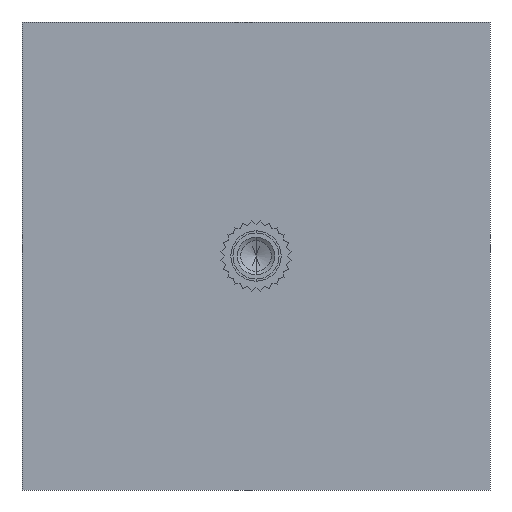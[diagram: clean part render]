
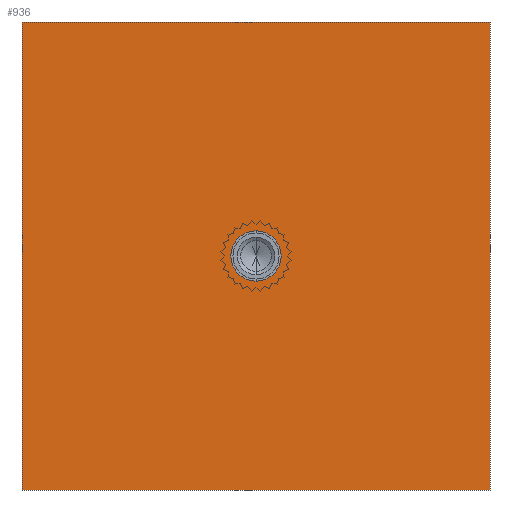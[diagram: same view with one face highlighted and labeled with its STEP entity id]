
A CAD part, front view. The second image highlights one B-rep face of the part: STEP entity #936.
In plain terms, the highlighted planar face has unit normal (0, -1, 0).
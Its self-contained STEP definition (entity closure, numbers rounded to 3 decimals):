
#17 = VECTOR ( 'NONE', #2529, 1000. ) ;
#101 = ORIENTED_EDGE ( 'NONE', *, *, #2638, .T. ) ;
#229 = DIRECTION ( 'NONE',  ( 0., -1., 0. ) ) ;
#249 = ORIENTED_EDGE ( 'NONE', *, *, #2349, .F. ) ;
#327 = CARTESIAN_POINT ( 'NONE',  ( 0., 0., 0. ) ) ;
#396 = DIRECTION ( 'NONE',  ( 0., -1., 0. ) ) ;
#485 = CARTESIAN_POINT ( 'NONE',  ( 0., 0., -50. ) ) ;
#731 = EDGE_CURVE ( 'NONE', #4432, #4225, #1960, .T. ) ;
#795 = VERTEX_POINT ( 'NONE', #1479 ) ;
#936 = ADVANCED_FACE ( 'NONE', ( #1677, #3605 ), #2655, .T. ) ;
#1025 = ORIENTED_EDGE ( 'NONE', *, *, #4578, .F. ) ;
#1181 = EDGE_CURVE ( 'NONE', #795, #4366, #2133, .T. ) ;
#1194 = CARTESIAN_POINT ( 'NONE',  ( 0., 0., -50. ) ) ;
#1209 = ORIENTED_EDGE ( 'NONE', *, *, #1181, .F. ) ;
#1214 = CARTESIAN_POINT ( 'NONE',  ( 50., 0., 0. ) ) ;
#1239 = AXIS2_PLACEMENT_3D ( 'NONE', #2590, #396, #2950 ) ;
#1427 = AXIS2_PLACEMENT_3D ( 'NONE', #2437, #229, #2790 ) ;
#1471 = VERTEX_POINT ( 'NONE', #327 ) ;
#1479 = CARTESIAN_POINT ( 'NONE',  ( 25., 0., -22.31 ) ) ;
#1515 = AXIS2_PLACEMENT_3D ( 'NONE', #1194, #3743, #1566 ) ;
#1561 = VECTOR ( 'NONE', #4600, 1000. ) ;
#1566 = DIRECTION ( 'NONE',  ( 0., 0., -1. ) ) ;
#1571 = EDGE_CURVE ( 'NONE', #4366, #795, #4345, .T. ) ;
#1598 = VECTOR ( 'NONE', #2510, 1000. ) ;
#1677 = FACE_BOUND ( 'NONE', #3872, .T. ) ;
#1767 = CARTESIAN_POINT ( 'NONE',  ( 50., 0., -50. ) ) ;
#1960 = LINE ( 'NONE', #1767, #17 ) ;
#2004 = ORIENTED_EDGE ( 'NONE', *, *, #1571, .F. ) ;
#2133 = CIRCLE ( 'NONE', #1427, 2.69 ) ;
#2297 = DIRECTION ( 'NONE',  ( 0., 0., 1. ) ) ;
#2349 = EDGE_CURVE ( 'NONE', #3685, #1471, #3889, .T. ) ;
#2403 = CARTESIAN_POINT ( 'NONE',  ( 25., 0., -27.69 ) ) ;
#2437 = CARTESIAN_POINT ( 'NONE',  ( 25., 0., -25. ) ) ;
#2510 = DIRECTION ( 'NONE',  ( 1., 0., 0. ) ) ;
#2529 = DIRECTION ( 'NONE',  ( 0., 0., 1. ) ) ;
#2590 = CARTESIAN_POINT ( 'NONE',  ( 25., 0., -25. ) ) ;
#2638 = EDGE_CURVE ( 'NONE', #3685, #4432, #3594, .T. ) ;
#2655 = PLANE ( 'NONE',  #1515 ) ;
#2790 = DIRECTION ( 'NONE',  ( 0., 0., -1. ) ) ;
#2928 = VECTOR ( 'NONE', #2297, 1000. ) ;
#2950 = DIRECTION ( 'NONE',  ( 0., 0., -1. ) ) ;
#2997 = EDGE_LOOP ( 'NONE', ( #1025, #249, #101, #4544 ) ) ;
#3594 = LINE ( 'NONE', #4614, #1561 ) ;
#3605 = FACE_OUTER_BOUND ( 'NONE', #2997, .T. ) ;
#3685 = VERTEX_POINT ( 'NONE', #485 ) ;
#3743 = DIRECTION ( 'NONE',  ( 0., -1., 0. ) ) ;
#3872 = EDGE_LOOP ( 'NONE', ( #2004, #1209 ) ) ;
#3889 = LINE ( 'NONE', #4468, #2928 ) ;
#4225 = VERTEX_POINT ( 'NONE', #1214 ) ;
#4240 = CARTESIAN_POINT ( 'NONE',  ( 50., 0., -50. ) ) ;
#4275 = LINE ( 'NONE', #4682, #1598 ) ;
#4345 = CIRCLE ( 'NONE', #1239, 2.69 ) ;
#4366 = VERTEX_POINT ( 'NONE', #2403 ) ;
#4432 = VERTEX_POINT ( 'NONE', #4240 ) ;
#4468 = CARTESIAN_POINT ( 'NONE',  ( 0., 0., -50. ) ) ;
#4544 = ORIENTED_EDGE ( 'NONE', *, *, #731, .T. ) ;
#4578 = EDGE_CURVE ( 'NONE', #1471, #4225, #4275, .T. ) ;
#4600 = DIRECTION ( 'NONE',  ( 1., 0., 0. ) ) ;
#4614 = CARTESIAN_POINT ( 'NONE',  ( 0., 0., -50. ) ) ;
#4682 = CARTESIAN_POINT ( 'NONE',  ( 0., 0., 0. ) ) ;
